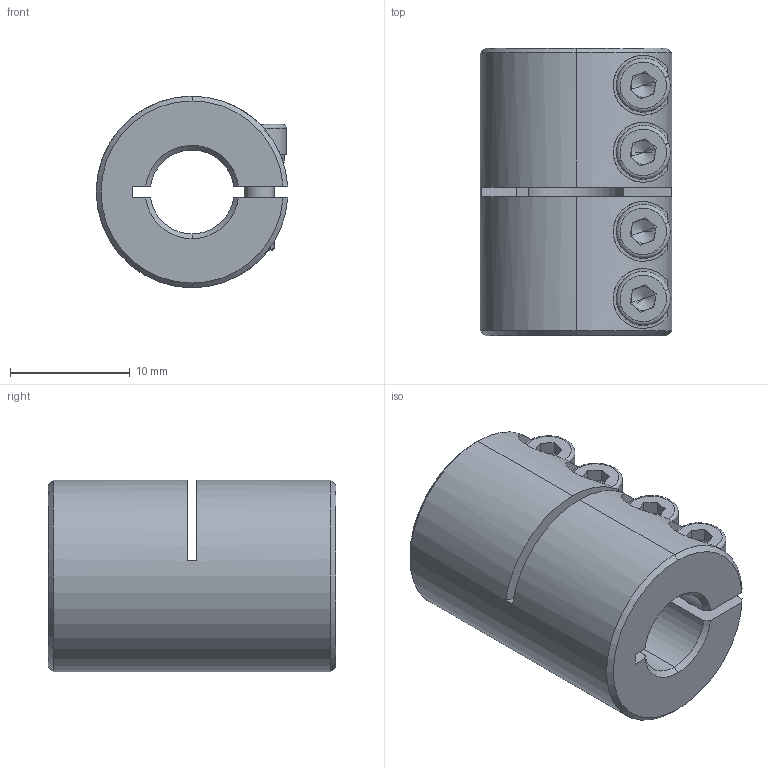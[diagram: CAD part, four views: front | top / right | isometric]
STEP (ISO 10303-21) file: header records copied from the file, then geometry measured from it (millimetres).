
FILE_DESCRIPTION (( 'STEP AP203' ), '1' );
FILE_NAME ('LL-B-D16L24-7-8.STEP', '2021-11-03T04:58:11', ( '' ), ( '' ), 'SwSTEP 2.0', 'SolidWorks 2018', '' );
FILE_SCHEMA (( 'CONFIG_CONTROL_DESIGN' ));
Length unit declared in the file: millimetre
Products named in the file (1): LL-B-D16L24-7-8
Bounding box: 15.98 x 24 x 16 mm (x, y, z)
Volume: 3486.7 mm3; surface area: 2925.4 mm2
Topology: 1 solids, 1 shells, 205 faces, 533 edges, 332 vertices
Faces by surface type: plane 92, cylinder 77, cone 28, torus 8
Entity records: 6700 total; most frequent: CARTESIAN_POINT 1537, DIRECTION 1109, ORIENTED_EDGE 1050, EDGE_CURVE 525, AXIS2_PLACEMENT_3D 432, VERTEX_POINT 332, LINE 245, VECTOR 245
